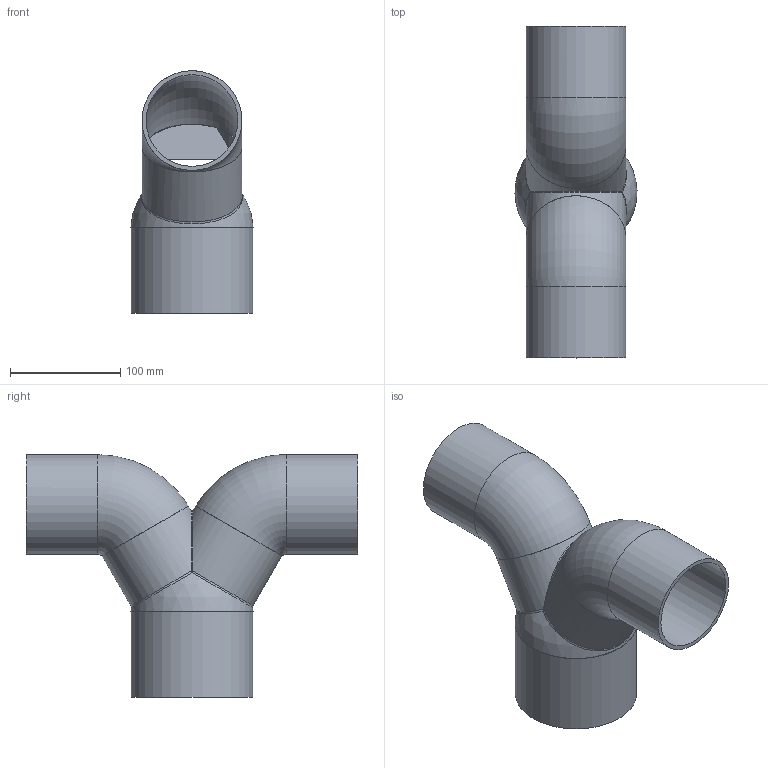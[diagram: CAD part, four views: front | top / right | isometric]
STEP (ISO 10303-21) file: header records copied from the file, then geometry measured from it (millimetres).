
FILE_DESCRIPTION(/* description */ (''),/* implementation_level */ '2;1');
FILE_NAME(/* name */ 'C:\Planerdaten\Export PLA\310.481.14.1\stp\310481.stp',/* time_stamp */ '2021-09-21T10:28:57+02:00',/* author */ ('JANAN'),/* organization */ (''),/* preprocessor_version */ 'ST-DEVELOPER v16.13',/* originating_system */ 'Autodesk Inventor 2018',/* authorisation */ '');
FILE_SCHEMA (('AUTOMOTIVE_DESIGN { 1 0 10303 214 3 1 1 }'));
Length unit declared in the file: millimetre
Products named in the file (1): tmpB89F.tmp
Bounding box: 110.45 x 300.4 x 219.76 mm (x, y, z)
Volume: 510689.5 mm3; surface area: 241094.2 mm2
Topology: 1 solids, 1 shells, 37 faces, 90 edges, 56 vertices
Faces by surface type: plane 14, cylinder 10, torus 6, bspline 5, sphere 2
Full cylindrical faces by diameter (mm): 82 x2, 83.025 x2, 90.375 x2, 90.4 x2, 98 x1, 110 x1
Entity records: 2169 total; most frequent: CARTESIAN_POINT 1374, DIRECTION 150, ORIENTED_EDGE 124, AXIS2_PLACEMENT_3D 73, EDGE_CURVE 62, EDGE_LOOP 60, VERTEX_POINT 46, STYLED_ITEM 38
